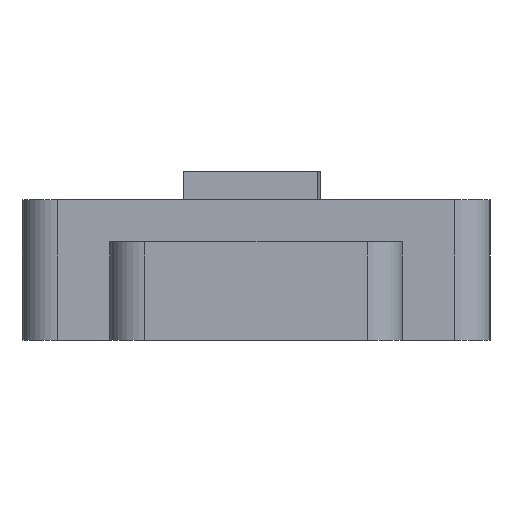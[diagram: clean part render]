
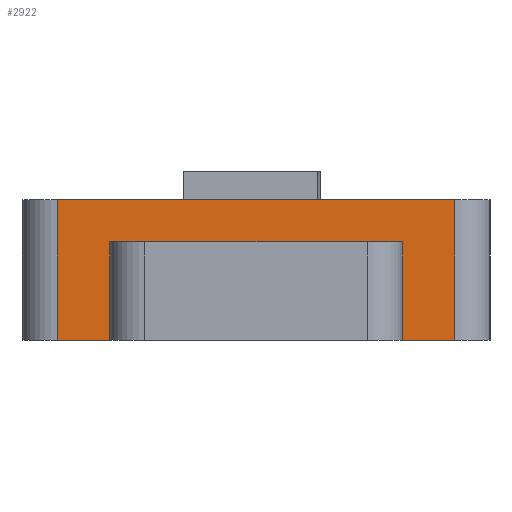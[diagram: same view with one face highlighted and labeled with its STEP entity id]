
A CAD part, left-side view. The second image highlights one B-rep face of the part: STEP entity #2922.
In plain terms, the highlighted planar face has unit normal (-1, 0, 0).
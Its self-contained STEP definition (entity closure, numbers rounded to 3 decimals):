
#62 = PLANE('',#63);
#63 = AXIS2_PLACEMENT_3D('',#64,#65,#66);
#64 = CARTESIAN_POINT('',(0.,0.,0.));
#65 = DIRECTION('',(0.,0.,1.));
#66 = DIRECTION('',(1.,0.,-0.));
#90 = CYLINDRICAL_SURFACE('',#91,0.6);
#91 = AXIS2_PLACEMENT_3D('',#92,#93,#94);
#92 = CARTESIAN_POINT('',(-14.25,-3.4,0.));
#93 = DIRECTION('',(0.,0.,1.));
#94 = DIRECTION('',(0.,-1.,0.));
#118 = PLANE('',#119);
#119 = AXIS2_PLACEMENT_3D('',#120,#121,#122);
#120 = CARTESIAN_POINT('',(0.,0.,2.4));
#121 = DIRECTION('',(0.,0.,1.));
#122 = DIRECTION('',(1.,0.,-0.));
#160 = VERTEX_POINT('',#161);
#161 = CARTESIAN_POINT('',(-14.85,-3.4,0.));
#463 = VERTEX_POINT('',#464);
#464 = CARTESIAN_POINT('',(-14.85,3.4,0.));
#479 = CYLINDRICAL_SURFACE('',#480,0.6);
#480 = AXIS2_PLACEMENT_3D('',#481,#482,#483);
#481 = CARTESIAN_POINT('',(-14.25,3.4,0.));
#482 = DIRECTION('',(0.,0.,1.));
#483 = DIRECTION('',(-0.,1.,0.));
#491 = EDGE_CURVE('',#463,#492,#494,.T.);
#492 = VERTEX_POINT('',#493);
#493 = CARTESIAN_POINT('',(-14.85,2.5,0.));
#494 = SURFACE_CURVE('',#495,(#499,#506),.PCURVE_S1.);
#495 = LINE('',#496,#497);
#496 = CARTESIAN_POINT('',(-14.85,4.,0.));
#497 = VECTOR('',#498,1.);
#498 = DIRECTION('',(0.,-1.,0.));
#499 = PCURVE('',#62,#500);
#500 = DEFINITIONAL_REPRESENTATION('',(#501),#505);
#501 = LINE('',#502,#503);
#502 = CARTESIAN_POINT('',(-14.85,4.));
#503 = VECTOR('',#504,1.);
#504 = DIRECTION('',(0.,-1.));
#505 = ( GEOMETRIC_REPRESENTATION_CONTEXT(2) 
PARAMETRIC_REPRESENTATION_CONTEXT() REPRESENTATION_CONTEXT('2D SPACE',''
  ) );
#506 = PCURVE('',#507,#512);
#507 = PLANE('',#508);
#508 = AXIS2_PLACEMENT_3D('',#509,#510,#511);
#509 = CARTESIAN_POINT('',(-14.85,4.,0.));
#510 = DIRECTION('',(1.,0.,-0.));
#511 = DIRECTION('',(0.,-1.,0.));
#512 = DEFINITIONAL_REPRESENTATION('',(#513),#517);
#513 = LINE('',#514,#515);
#514 = CARTESIAN_POINT('',(0.,0.));
#515 = VECTOR('',#516,1.);
#516 = DIRECTION('',(1.,0.));
#517 = ( GEOMETRIC_REPRESENTATION_CONTEXT(2) 
PARAMETRIC_REPRESENTATION_CONTEXT() REPRESENTATION_CONTEXT('2D SPACE',''
  ) );
#535 = PLANE('',#536);
#536 = AXIS2_PLACEMENT_3D('',#537,#538,#539);
#537 = CARTESIAN_POINT('',(-13.85,2.5,0.));
#538 = DIRECTION('',(0.,-1.,0.));
#539 = DIRECTION('',(-1.,0.,0.));
#638 = VERTEX_POINT('',#639);
#639 = CARTESIAN_POINT('',(-14.85,-2.5,0.));
#653 = PLANE('',#654);
#654 = AXIS2_PLACEMENT_3D('',#655,#656,#657);
#655 = CARTESIAN_POINT('',(-17.25,-2.5,0.));
#656 = DIRECTION('',(0.,1.,0.));
#657 = DIRECTION('',(1.,0.,0.));
#665 = EDGE_CURVE('',#638,#160,#666,.T.);
#666 = SURFACE_CURVE('',#667,(#671,#678),.PCURVE_S1.);
#667 = LINE('',#668,#669);
#668 = CARTESIAN_POINT('',(-14.85,4.,0.));
#669 = VECTOR('',#670,1.);
#670 = DIRECTION('',(0.,-1.,0.));
#671 = PCURVE('',#62,#672);
#672 = DEFINITIONAL_REPRESENTATION('',(#673),#677);
#673 = LINE('',#674,#675);
#674 = CARTESIAN_POINT('',(-14.85,4.));
#675 = VECTOR('',#676,1.);
#676 = DIRECTION('',(0.,-1.));
#677 = ( GEOMETRIC_REPRESENTATION_CONTEXT(2) 
PARAMETRIC_REPRESENTATION_CONTEXT() REPRESENTATION_CONTEXT('2D SPACE',''
  ) );
#678 = PCURVE('',#507,#679);
#679 = DEFINITIONAL_REPRESENTATION('',(#680),#684);
#680 = LINE('',#681,#682);
#681 = CARTESIAN_POINT('',(0.,0.));
#682 = VECTOR('',#683,1.);
#683 = DIRECTION('',(1.,0.));
#684 = ( GEOMETRIC_REPRESENTATION_CONTEXT(2) 
PARAMETRIC_REPRESENTATION_CONTEXT() REPRESENTATION_CONTEXT('2D SPACE',''
  ) );
#690 = EDGE_CURVE('',#160,#691,#693,.T.);
#691 = VERTEX_POINT('',#692);
#692 = CARTESIAN_POINT('',(-14.85,-3.4,2.4));
#693 = SURFACE_CURVE('',#694,(#698,#705),.PCURVE_S1.);
#694 = LINE('',#695,#696);
#695 = CARTESIAN_POINT('',(-14.85,-3.4,0.));
#696 = VECTOR('',#697,1.);
#697 = DIRECTION('',(0.,0.,1.));
#698 = PCURVE('',#90,#699);
#699 = DEFINITIONAL_REPRESENTATION('',(#700),#704);
#700 = LINE('',#701,#702);
#701 = CARTESIAN_POINT('',(-1.571,0.));
#702 = VECTOR('',#703,1.);
#703 = DIRECTION('',(-0.,1.));
#704 = ( GEOMETRIC_REPRESENTATION_CONTEXT(2) 
PARAMETRIC_REPRESENTATION_CONTEXT() REPRESENTATION_CONTEXT('2D SPACE',''
  ) );
#705 = PCURVE('',#507,#706);
#706 = DEFINITIONAL_REPRESENTATION('',(#707),#711);
#707 = LINE('',#708,#709);
#708 = CARTESIAN_POINT('',(7.4,0.));
#709 = VECTOR('',#710,1.);
#710 = DIRECTION('',(0.,-1.));
#711 = ( GEOMETRIC_REPRESENTATION_CONTEXT(2) 
PARAMETRIC_REPRESENTATION_CONTEXT() REPRESENTATION_CONTEXT('2D SPACE',''
  ) );
#866 = VERTEX_POINT('',#867);
#867 = CARTESIAN_POINT('',(-14.85,3.4,2.4));
#889 = EDGE_CURVE('',#866,#691,#890,.T.);
#890 = SURFACE_CURVE('',#891,(#895,#902),.PCURVE_S1.);
#891 = LINE('',#892,#893);
#892 = CARTESIAN_POINT('',(-14.85,4.,2.4));
#893 = VECTOR('',#894,1.);
#894 = DIRECTION('',(0.,-1.,0.));
#895 = PCURVE('',#118,#896);
#896 = DEFINITIONAL_REPRESENTATION('',(#897),#901);
#897 = LINE('',#898,#899);
#898 = CARTESIAN_POINT('',(-14.85,4.));
#899 = VECTOR('',#900,1.);
#900 = DIRECTION('',(0.,-1.));
#901 = ( GEOMETRIC_REPRESENTATION_CONTEXT(2) 
PARAMETRIC_REPRESENTATION_CONTEXT() REPRESENTATION_CONTEXT('2D SPACE',''
  ) );
#902 = PCURVE('',#507,#903);
#903 = DEFINITIONAL_REPRESENTATION('',(#904),#908);
#904 = LINE('',#905,#906);
#905 = CARTESIAN_POINT('',(0.,-2.4));
#906 = VECTOR('',#907,1.);
#907 = DIRECTION('',(1.,0.));
#908 = ( GEOMETRIC_REPRESENTATION_CONTEXT(2) 
PARAMETRIC_REPRESENTATION_CONTEXT() REPRESENTATION_CONTEXT('2D SPACE',''
  ) );
#2922 = ADVANCED_FACE('',(#2923),#507,.F.);
#2923 = FACE_BOUND('',#2924,.F.);
#2924 = EDGE_LOOP('',(#2925,#2926,#2947,#2948,#2949,#2950,#2971,#2997));
#2925 = ORIENTED_EDGE('',*,*,#491,.F.);
#2926 = ORIENTED_EDGE('',*,*,#2927,.T.);
#2927 = EDGE_CURVE('',#463,#866,#2928,.T.);
#2928 = SURFACE_CURVE('',#2929,(#2933,#2940),.PCURVE_S1.);
#2929 = LINE('',#2930,#2931);
#2930 = CARTESIAN_POINT('',(-14.85,3.4,0.));
#2931 = VECTOR('',#2932,1.);
#2932 = DIRECTION('',(0.,0.,1.));
#2933 = PCURVE('',#507,#2934);
#2934 = DEFINITIONAL_REPRESENTATION('',(#2935),#2939);
#2935 = LINE('',#2936,#2937);
#2936 = CARTESIAN_POINT('',(0.6,0.));
#2937 = VECTOR('',#2938,1.);
#2938 = DIRECTION('',(0.,-1.));
#2939 = ( GEOMETRIC_REPRESENTATION_CONTEXT(2) 
PARAMETRIC_REPRESENTATION_CONTEXT() REPRESENTATION_CONTEXT('2D SPACE',''
  ) );
#2940 = PCURVE('',#479,#2941);
#2941 = DEFINITIONAL_REPRESENTATION('',(#2942),#2946);
#2942 = LINE('',#2943,#2944);
#2943 = CARTESIAN_POINT('',(1.571,0.));
#2944 = VECTOR('',#2945,1.);
#2945 = DIRECTION('',(0.,1.));
#2946 = ( GEOMETRIC_REPRESENTATION_CONTEXT(2) 
PARAMETRIC_REPRESENTATION_CONTEXT() REPRESENTATION_CONTEXT('2D SPACE',''
  ) );
#2947 = ORIENTED_EDGE('',*,*,#889,.T.);
#2948 = ORIENTED_EDGE('',*,*,#690,.F.);
#2949 = ORIENTED_EDGE('',*,*,#665,.F.);
#2950 = ORIENTED_EDGE('',*,*,#2951,.T.);
#2951 = EDGE_CURVE('',#638,#2952,#2954,.T.);
#2952 = VERTEX_POINT('',#2953);
#2953 = CARTESIAN_POINT('',(-14.85,-2.5,1.68));
#2954 = SURFACE_CURVE('',#2955,(#2959,#2965),.PCURVE_S1.);
#2955 = LINE('',#2956,#2957);
#2956 = CARTESIAN_POINT('',(-14.85,-2.5,0.));
#2957 = VECTOR('',#2958,1.);
#2958 = DIRECTION('',(0.,-0.,1.));
#2959 = PCURVE('',#507,#2960);
#2960 = DEFINITIONAL_REPRESENTATION('',(#2961),#2964);
#2961 = B_SPLINE_CURVE_WITH_KNOTS('',1,(#2962,#2963),.UNSPECIFIED.,.F.,
  .F.,(2,2),(0.,1.68),.PIECEWISE_BEZIER_KNOTS.);
#2962 = CARTESIAN_POINT('',(6.5,0.));
#2963 = CARTESIAN_POINT('',(6.5,-1.68));
#2964 = ( GEOMETRIC_REPRESENTATION_CONTEXT(2) 
PARAMETRIC_REPRESENTATION_CONTEXT() REPRESENTATION_CONTEXT('2D SPACE',''
  ) );
#2965 = PCURVE('',#653,#2966);
#2966 = DEFINITIONAL_REPRESENTATION('',(#2967),#2970);
#2967 = B_SPLINE_CURVE_WITH_KNOTS('',1,(#2968,#2969),.UNSPECIFIED.,.F.,
  .F.,(2,2),(0.,1.68),.PIECEWISE_BEZIER_KNOTS.);
#2968 = CARTESIAN_POINT('',(2.4,0.));
#2969 = CARTESIAN_POINT('',(2.4,-1.68));
#2970 = ( GEOMETRIC_REPRESENTATION_CONTEXT(2) 
PARAMETRIC_REPRESENTATION_CONTEXT() REPRESENTATION_CONTEXT('2D SPACE',''
  ) );
#2971 = ORIENTED_EDGE('',*,*,#2972,.F.);
#2972 = EDGE_CURVE('',#2973,#2952,#2975,.T.);
#2973 = VERTEX_POINT('',#2974);
#2974 = CARTESIAN_POINT('',(-14.85,2.5,1.68));
#2975 = SURFACE_CURVE('',#2976,(#2980,#2986),.PCURVE_S1.);
#2976 = LINE('',#2977,#2978);
#2977 = CARTESIAN_POINT('',(-14.85,2.,1.68));
#2978 = VECTOR('',#2979,1.);
#2979 = DIRECTION('',(0.,-1.,0.));
#2980 = PCURVE('',#507,#2981);
#2981 = DEFINITIONAL_REPRESENTATION('',(#2982),#2985);
#2982 = B_SPLINE_CURVE_WITH_KNOTS('',1,(#2983,#2984),.UNSPECIFIED.,.F.,
  .F.,(2,2),(-0.5,4.5),.PIECEWISE_BEZIER_KNOTS.);
#2983 = CARTESIAN_POINT('',(1.5,-1.68));
#2984 = CARTESIAN_POINT('',(6.5,-1.68));
#2985 = ( GEOMETRIC_REPRESENTATION_CONTEXT(2) 
PARAMETRIC_REPRESENTATION_CONTEXT() REPRESENTATION_CONTEXT('2D SPACE',''
  ) );
#2986 = PCURVE('',#2987,#2992);
#2987 = PLANE('',#2988);
#2988 = AXIS2_PLACEMENT_3D('',#2989,#2990,#2991);
#2989 = CARTESIAN_POINT('',(-15.55,0.,1.68));
#2990 = DIRECTION('',(0.,0.,1.));
#2991 = DIRECTION('',(1.,0.,-0.));
#2992 = DEFINITIONAL_REPRESENTATION('',(#2993),#2996);
#2993 = B_SPLINE_CURVE_WITH_KNOTS('',1,(#2994,#2995),.UNSPECIFIED.,.F.,
  .F.,(2,2),(-0.5,4.5),.PIECEWISE_BEZIER_KNOTS.);
#2994 = CARTESIAN_POINT('',(0.7,2.5));
#2995 = CARTESIAN_POINT('',(0.7,-2.5));
#2996 = ( GEOMETRIC_REPRESENTATION_CONTEXT(2) 
PARAMETRIC_REPRESENTATION_CONTEXT() REPRESENTATION_CONTEXT('2D SPACE',''
  ) );
#2997 = ORIENTED_EDGE('',*,*,#2998,.T.);
#2998 = EDGE_CURVE('',#2973,#492,#2999,.T.);
#2999 = SURFACE_CURVE('',#3000,(#3004,#3010),.PCURVE_S1.);
#3000 = LINE('',#3001,#3002);
#3001 = CARTESIAN_POINT('',(-14.85,2.5,0.));
#3002 = VECTOR('',#3003,1.);
#3003 = DIRECTION('',(0.,-0.,-1.));
#3004 = PCURVE('',#507,#3005);
#3005 = DEFINITIONAL_REPRESENTATION('',(#3006),#3009);
#3006 = B_SPLINE_CURVE_WITH_KNOTS('',1,(#3007,#3008),.UNSPECIFIED.,.F.,
  .F.,(2,2),(-1.68,0.),.PIECEWISE_BEZIER_KNOTS.);
#3007 = CARTESIAN_POINT('',(1.5,-1.68));
#3008 = CARTESIAN_POINT('',(1.5,0.));
#3009 = ( GEOMETRIC_REPRESENTATION_CONTEXT(2) 
PARAMETRIC_REPRESENTATION_CONTEXT() REPRESENTATION_CONTEXT('2D SPACE',''
  ) );
#3010 = PCURVE('',#535,#3011);
#3011 = DEFINITIONAL_REPRESENTATION('',(#3012),#3015);
#3012 = B_SPLINE_CURVE_WITH_KNOTS('',1,(#3013,#3014),.UNSPECIFIED.,.F.,
  .F.,(2,2),(-1.68,0.),.PIECEWISE_BEZIER_KNOTS.);
#3013 = CARTESIAN_POINT('',(1.,-1.68));
#3014 = CARTESIAN_POINT('',(1.,0.));
#3015 = ( GEOMETRIC_REPRESENTATION_CONTEXT(2) 
PARAMETRIC_REPRESENTATION_CONTEXT() REPRESENTATION_CONTEXT('2D SPACE',''
  ) );
